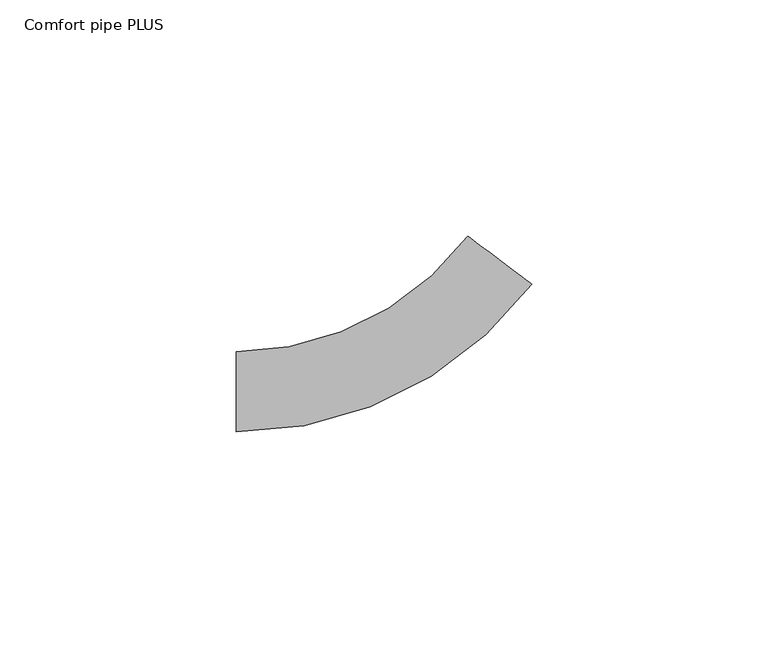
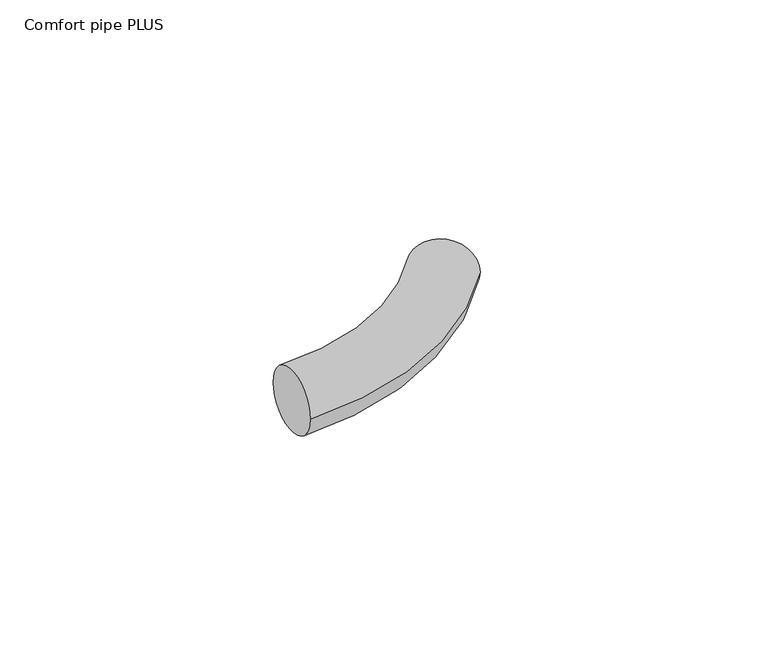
"""IFC4 building model written with IfcOpenShell, lengths in millimetres: pipe fitting geometry, 400_5-_Uponor_curved_Elbow : Comfort pipe PLUS."""

from ifc_helpers import new_model, si_unit, point, frame, origin, place, context, project, spatial, circle_curve, ellipse_curve, trimmed, source, transform, mapped, element, save
from ifc_brep_helpers import plane_surface, revolved_surface, advanced_brep


def comfort_pipe_plus_0f36303e(model_context):
    return source(origin(), model_context, "Body", "AdvancedBrep", [
        advanced_brep(
        [(-34.8805643, -8.5, 0.0), (-34.8805643, 8.5, 0.0), (27.7905327, 22.7286175, 0.0), (14.218448, 32.9657322, 0.0)],
        [
            (0, 1, circle_curve(frame((-34.8805643, 0.0, 0.0), z_axis=(-1.0, 0.0, 0.0), x_axis=(0.0, 1.0, 0.0)), 8.5)),
            (1, 0, circle_curve(frame((-34.8805643, 0.0, 0.0), z_axis=(-1.0, 0.0, 0.0), x_axis=(0.0, 1.0, 0.0)), 8.5)),
            (2, 3, circle_curve(frame((21.0044904, 27.8471748, 0.0), z_axis=(0.6021832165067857, 0.7983579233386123, 0.0), x_axis=(-0.7983579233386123, 0.6021832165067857, 0.0)), 8.5)),
            (3, 2, circle_curve(frame((21.0044904, 27.8471748, 0.0), z_axis=(0.6021832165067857, 0.7983579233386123, 0.0), x_axis=(-0.7983579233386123, 0.6021832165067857, 0.0)), 8.5)),
            (3, 1, circle_curve(frame((-34.8805643, 70.0, 0.0), z_axis=(0.0, 0.0, -1.0), x_axis=(0.0, -1.0, 0.0)), 61.5)),
            (0, 2, circle_curve(frame((-34.8805643, 70.0, 0.0), z_axis=(0.0, 0.0, 1.0), x_axis=(0.0, -1.0, 0.0)), 78.5)),
        ],
        [
            plane_surface(frame((-34.8805643, 0.0, 0.0), z_axis=(-1.0, 0.0, 0.0), x_axis=(0.0, 0.0, 1.0))),
            plane_surface(frame((21.0044904, 27.8471748, 0.0), z_axis=(0.6021832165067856, 0.7983579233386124, 0.0), x_axis=(0.0, 0.0, 1.0))),
            revolved_surface(trimmed(ellipse_curve(frame((-34.8805643, 0.0, 0.0), z_axis=(-1.0, 0.0, 0.0), x_axis=(0.0, 1.0, 0.0)), 8.5, 8.5), [point((-34.8805643, -8.5, 0.0))], [point((-34.8805643, 8.5, 0.0))], True, "CARTESIAN"), (-34.8805643, 70.0, 0.0), (0.0, 0.0, 1.0)),
            revolved_surface(trimmed(ellipse_curve(frame((-34.8805643, 0.0, 0.0), z_axis=(-1.0, 0.0, 0.0), x_axis=(0.0, 1.0, 0.0)), 8.5, 8.5), [point((-34.8805643, 8.5, 0.0))], [point((-34.8805643, -8.5, 0.0))], True, "CARTESIAN"), (-34.8805643, 70.0, 0.0), (0.0, 0.0, 1.0)),
        ],
        [
            (0, [[1, 2]]),
            (1, [[3, 4]]),
            (2, [[5, -1, 6, -4]]),
            (3, [[-6, -2, -5, -3]]),
        ],
    ),
    ])


if __name__ == "__main__":
    model = new_model("IFC4")
    model_context = context("Model", 3, world=origin())
    ifc_project = project(units=[si_unit("LENGTHUNIT", "METRE", prefix="MILLI")], contexts=[model_context])
    site = spatial("IfcSite", under=ifc_project)
    building = spatial("IfcBuilding", under=site)
    placement = place(None, origin())
    comfort_pipe_plus_shape = comfort_pipe_plus_0f36303e(model_context)
    element("IfcPipeFitting", 1, ObjectType="400_5-_Uponor_curved_Elbow : Comfort pipe PLUS", at=placement, inside=building, context=model_context, shape_type="MappedRepresentation", body=[
        mapped(comfort_pipe_plus_shape, transform((0.0, 0.0, 0.0), x_axis=(1.0, 0.0, 0.0), y_axis=(0.0, 1.0, 0.0), z_axis=(0.0, 0.0, 1.0))),
    ])
    save(model, "model.ifc")
